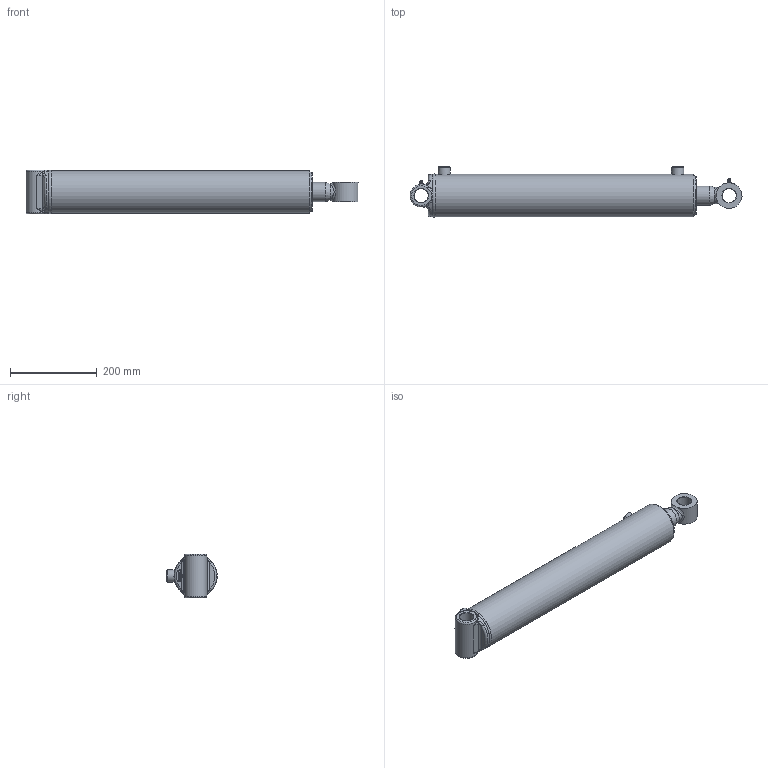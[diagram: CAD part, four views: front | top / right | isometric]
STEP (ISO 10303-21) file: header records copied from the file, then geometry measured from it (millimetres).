
FILE_DESCRIPTION(/* description */ ('Ø3.50 X 20.00 DA'),/* implementation_level */ '2;1');
FILE_NAME(/* name */ 'result.stp',/* time_stamp */ '2024-07-12T20:56:23Z',/* author */ ('AJC'),/* organization */ ('PRINCE MANUFACTURING'),/* preprocessor_version */ 'ST-DEVELOPER v20',/* originating_system */ 'Autodesk Inventor 2024',/* authorisation */ '');
FILE_SCHEMA (('AUTOMOTIVE_DESIGN { 1 0 10303 214 3 1 1 }'));
Length unit declared in the file: inch
Products named in the file (21): PC3520017A00-280XYXA; 0617-XYSF000-23570; 0517-T-23570; 161700179; 200015603; 06Weld1_C360; 0717-P-100; 220000210; 0817-G-175; 230025105; 230025005; 240000022; 240061338; 240000338; 0210A-HAW5-25687XA; 0110A-HAW5-25687; 210600529; 02Weld_C360; 240020007; 250014175; 270010020
Assembly tree (22 placements, depth 3):
  PC3520017A00-280XYXA
    0617-XYSF000-23570
      0517-T-23570
      161700179
      200015603  x2
      06Weld1_C360
    0717-P-100
    220000210
    0817-G-175
    230025105
    230025005
    240000022
    240061338
    240000338
    0210A-HAW5-25687XA
      0110A-HAW5-25687
      210600529
      02Weld_C360
    240020007
    250014175
    270010020  x2
Bounding box: 766.72 x 116.74 x 101.6 mm (x, y, z)
Volume: 2477973.5 mm3; surface area: 632913.5 mm2
Topology: 26 solids, 26 shells, 536 faces, 1281 edges, 823 vertices
Faces by surface type: plane 144, bspline 128, torus 89, cylinder 87, cone 84, sphere 4
Full cylindrical faces by diameter (mm): 2.143 x4, 3.175 x1, 5.359 x2, 6.35 x2, 9.525 x2, 12.649 x1, 12.7 x1, 12.725 x1, 17.323 x2, 23.444 x1, 25.349 x1, 25.476 x1, 27.965 x1, 28.575 x2, 32.131 x2, 44.45 x1, 44.526 x2, 45.644 x2, 46.482 x1, 46.838 x1, 51.613 x1, 52.807 x1, 54 x1, 55.626 x2, 57.15 x2, 61.976 x1, 69.85 x2, 79.477 x2, 80.213 x2, 83.82 x1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
Entity records: 29468 total; most frequent: CARTESIAN_POINT 17326, ORIENTED_EDGE 2352, DIRECTION 2142, EDGE_CURVE 1176, AXIS2_PLACEMENT_3D 908, VERTEX_POINT 762, EDGE_LOOP 572, FACE_OUTER_BOUND 492
